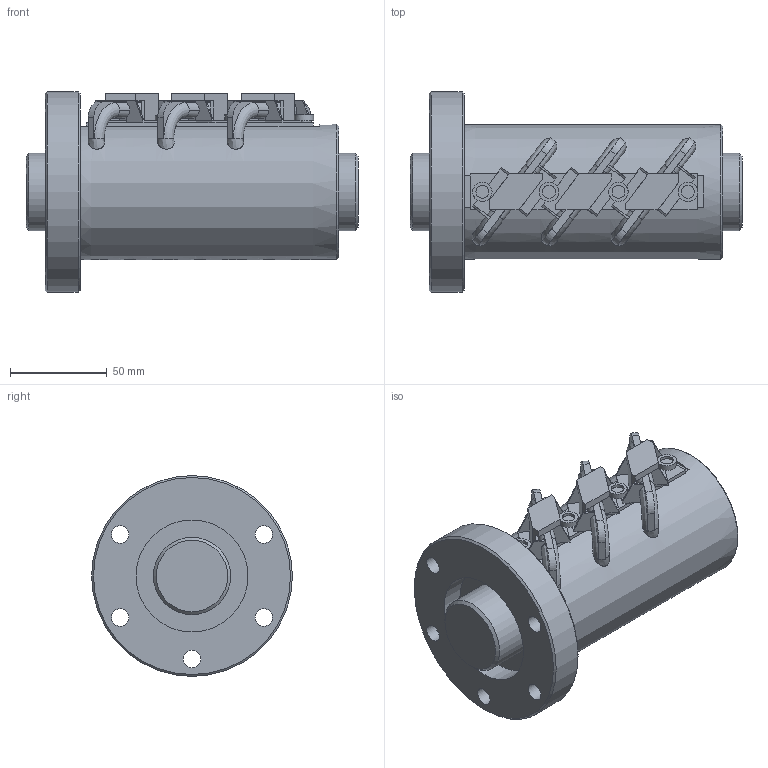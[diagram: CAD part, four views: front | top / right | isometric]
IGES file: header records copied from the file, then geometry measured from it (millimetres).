
Start section: Data from Parasolid IGES Translator 26.0.171, Copyright(c) 2006 Siemens PLM Software. All Rights Reserved.
Global section: file name: HBN4012-7.5RRG2+172LC0(0G200)_rev.igs; native system: By Siemens PLM Incorporated; preprocessor: XPlus GENERIC/IGES 26.0.171; author: Noname; organization: Noname; date: 20240704.081747; units: millimetre
Bounding box: 172 x 104 x 104 mm (x, y, z)
Surface area: 111674.8 mm2 (no closed solid volume)
Topology: 0 solids, 0 shells, 263 faces, 1555 edges, 1511 vertices
Faces by surface type: extrusion 196, revolution 67
